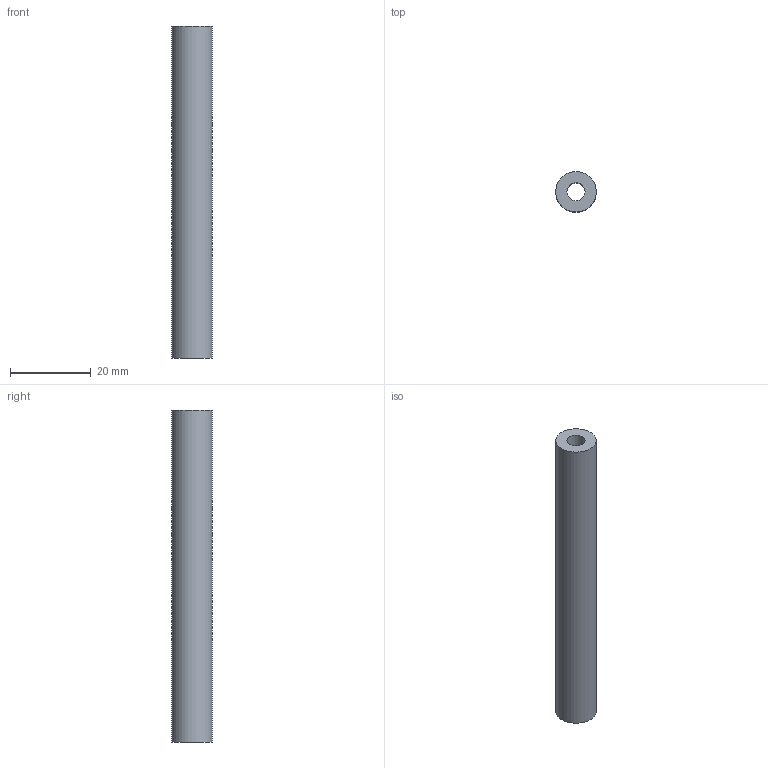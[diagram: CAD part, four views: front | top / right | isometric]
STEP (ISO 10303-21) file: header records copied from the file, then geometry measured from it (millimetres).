
FILE_DESCRIPTION(('Open CASCADE Model'),'2;1');
FILE_NAME('Open CASCADE Shape Model','2026-10-15T02:45:44',('Author'),( 'Open CASCADE'),'Open CASCADE STEP processor 7.9','Open CASCADE 7.9' ,'Unknown');
FILE_SCHEMA(('AUTOMOTIVE_DESIGN { 1 0 10303 214 1 1 1 1 }'));
Length unit declared in the file: millimetre
Products named in the file (1): Open CASCADE STEP translator 7.9 11
Bounding box: 10 x 10 x 82 mm (x, y, z)
Volume: 5136.1 mm3; surface area: 3860.6 mm2
Topology: 1 solids, 1 shells, 4 faces, 6 edges, 4 vertices
Faces by surface type: cylinder 2, plane 2
Full cylindrical faces by diameter (mm): 4.5 x1, 10 x1
Entity records: 186 total; most frequent: DIRECTION 32, CARTESIAN_POINT 27, ORIENTED_EDGE 12, PCURVE 12, DEFINITIONAL_REPRESENTATION 12, LINE 10, VECTOR 10, AXIS2_PLACEMENT_3D 9
